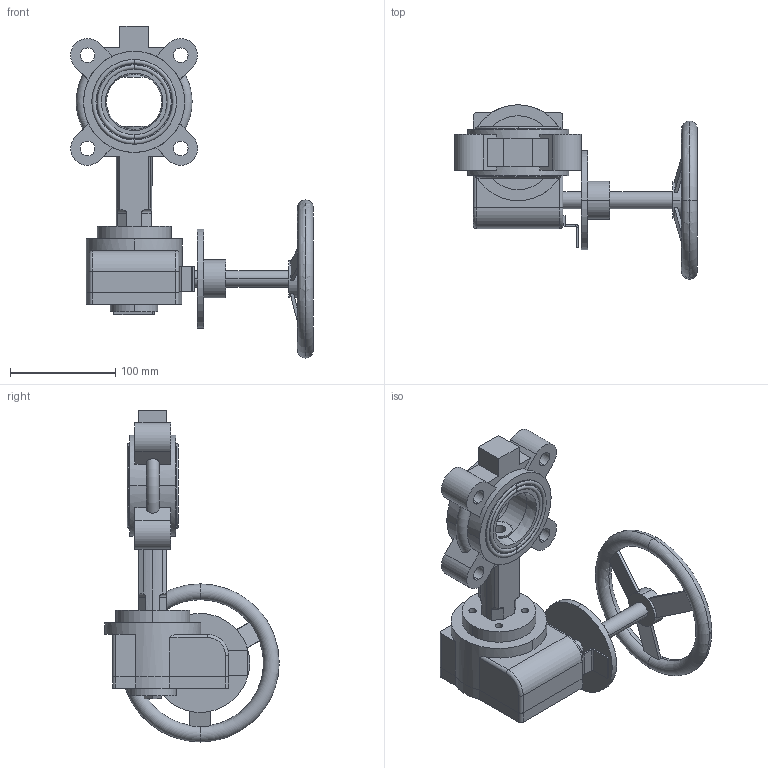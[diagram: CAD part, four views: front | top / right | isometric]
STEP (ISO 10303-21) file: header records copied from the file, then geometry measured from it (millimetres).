
FILE_DESCRIPTION (( 'STEP AP203' ), '1' );
FILE_NAME ('DN50凸耳2寸涡轮头.STEP', '2026-06-10T07:34:26', ( '微软用户' ), ( '微软中国' ), 'SwSTEP 2.0', 'SolidWorks 2024', '' );
FILE_SCHEMA (( 'CONFIG_CONTROL_DESIGN' ));
Length unit declared in the file: millimetre
Products named in the file (4): 2寸涡轮头; 50凸耳  3_step; 衬胶2寸; DN50凸耳2寸涡轮头
Assembly tree (3 placements, depth 2):
  DN50凸耳2寸涡轮头
    50凸耳  3_step
    衬胶2寸
    2寸涡轮头
Bounding box: 230.17 x 165.5 x 315 mm (x, y, z)
Volume: 1167508.5 mm3; surface area: 242259.8 mm2
Topology: 6 solids, 6 shells, 280 faces, 713 edges, 460 vertices
Faces by surface type: plane 131, cylinder 113, cone 20, torus 16
Entity records: 9929 total; most frequent: CARTESIAN_POINT 2591, DIRECTION 1489, ORIENTED_EDGE 1422, EDGE_CURVE 711, AXIS2_PLACEMENT_3D 570, VERTEX_POINT 460, VECTOR 349, LINE 349
